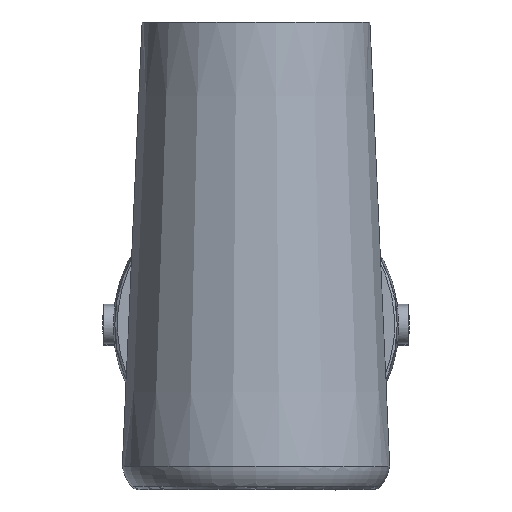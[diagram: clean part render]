
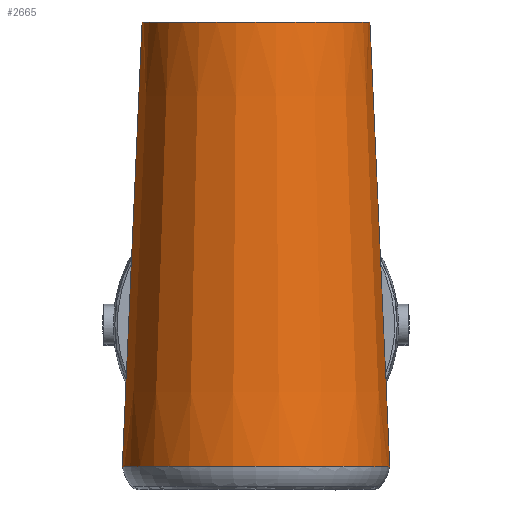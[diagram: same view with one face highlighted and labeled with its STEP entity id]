
A CAD part, top view. The second image highlights one B-rep face of the part: STEP entity #2665.
In plain terms, the highlighted conical face has half-angle 2.551 degrees and reference radius 34.528 mm.
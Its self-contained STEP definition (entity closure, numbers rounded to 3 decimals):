
#89=CONICAL_SURFACE('',#2928,34.528,0.045);
#277=FACE_OUTER_BOUND('',#475,.T.);
#475=EDGE_LOOP('',(#1996,#1997,#1998,#1999));
#653=CIRCLE('',#2900,35.047);
#665=CIRCLE('',#2926,29.856);
#836=LINE('',#5367,#1020);
#837=LINE('',#5368,#1021);
#1020=VECTOR('',#3467,304.8);
#1021=VECTOR('',#3468,304.8);
#1203=VERTEX_POINT('',#5225);
#1204=VERTEX_POINT('',#5261);
#1215=VERTEX_POINT('',#5359);
#1216=VERTEX_POINT('',#5360);
#1464=EDGE_CURVE('',#1203,#1204,#653,.T.);
#1489=EDGE_CURVE('',#1216,#1215,#665,.T.);
#1490=EDGE_CURVE('',#1215,#1203,#836,.T.);
#1491=EDGE_CURVE('',#1204,#1216,#837,.T.);
#1996=ORIENTED_EDGE('',*,*,#1489,.T.);
#1997=ORIENTED_EDGE('',*,*,#1490,.T.);
#1998=ORIENTED_EDGE('',*,*,#1464,.T.);
#1999=ORIENTED_EDGE('',*,*,#1491,.T.);
#2665=ADVANCED_FACE('',(#277),#89,.T.);
#2900=AXIS2_PLACEMENT_3D('',#5298,#3401,#3402);
#2926=AXIS2_PLACEMENT_3D('',#5365,#3463,#3464);
#2928=AXIS2_PLACEMENT_3D('',#5369,#3469,#3470);
#3401=DIRECTION('center_axis',(1.,0.,0.));
#3402=DIRECTION('ref_axis',(0.,0.809,0.588));
#3463=DIRECTION('center_axis',(-1.,0.,0.));
#3464=DIRECTION('ref_axis',(0.,0.809,0.588));
#3467=DIRECTION('',(-0.999,0.045,0.));
#3468=DIRECTION('',(0.999,0.045,0.));
#3469=DIRECTION('center_axis',(-1.,0.,0.));
#3470=DIRECTION('ref_axis',(0.,0.809,0.588));
#5225=CARTESIAN_POINT('',(-37.282,35.047,75.776));
#5261=CARTESIAN_POINT('',(-37.282,-35.047,75.776));
#5298=CARTESIAN_POINT('Origin',(-37.282,0.,
75.776));
#5359=CARTESIAN_POINT('',(79.21,29.856,75.776));
#5360=CARTESIAN_POINT('',(79.21,-29.856,75.776));
#5365=CARTESIAN_POINT('Origin',(79.21,0.,
75.776));
#5367=CARTESIAN_POINT('',(79.21,29.856,75.776));
#5368=CARTESIAN_POINT('',(-37.282,-35.047,75.776));
#5369=CARTESIAN_POINT('Origin',(-25.632,0.,
75.776));
